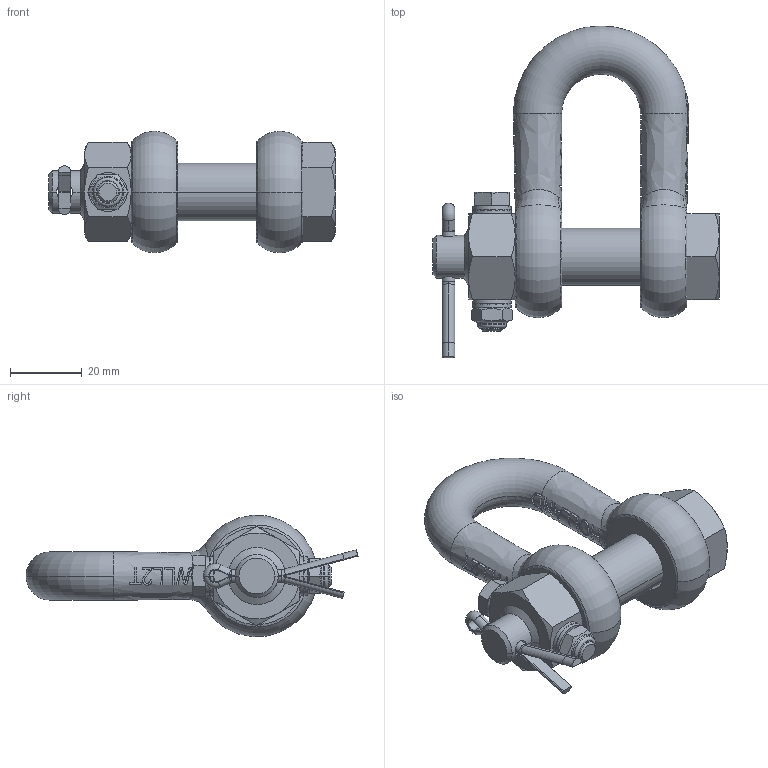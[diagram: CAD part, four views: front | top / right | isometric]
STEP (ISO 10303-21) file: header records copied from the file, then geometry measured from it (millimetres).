
FILE_DESCRIPTION(('STEP AP203'),'1');
FILE_NAME('gpgdmb13fn.stp','2022-04-22T10:03:22',('TraceParts'),('TraceParts S.A.'),'Spatial InterOp 3D',' ',' ');
FILE_SCHEMA(('CONFIG_CONTROL_DESIGN'));
Length unit declared in the file: millimetre
Products named in the file (1): 1
Bounding box: 80 x 92.77 x 33.93 mm (x, y, z)
Volume: 53106.6 mm3; surface area: 20822.2 mm2
Topology: 8 solids, 8 shells, 822 faces, 2216 edges, 1414 vertices
Faces by surface type: plane 479, bspline 128, cylinder 118, torus 49, cone 48
Entity records: 33854 total; most frequent: CARTESIAN_POINT 14700, ORIENTED_EDGE 4390, DIRECTION 3352, EDGE_CURVE 2195, VERTEX_POINT 1407, LINE 1202, VECTOR 1202, AXIS2_PLACEMENT_3D 1075
